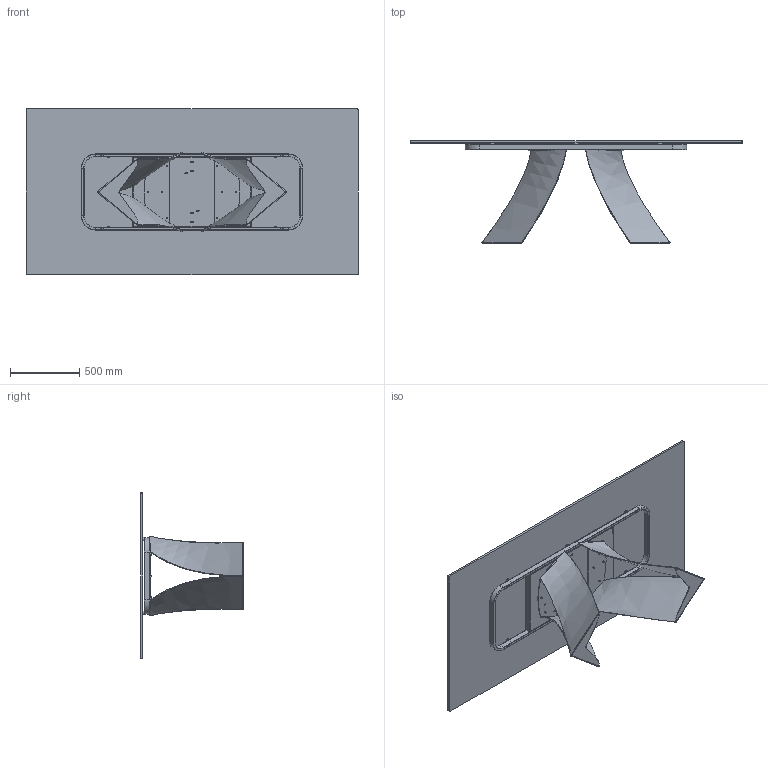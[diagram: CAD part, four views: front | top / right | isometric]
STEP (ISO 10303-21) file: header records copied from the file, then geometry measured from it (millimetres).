
FILE_DESCRIPTION (( 'STEP AP203' ), '1' );
FILE_NAME ('TW23G.STEP', '2024-08-07T12:38:18', ( '' ), ( '' ), 'SwSTEP 2.0', 'SolidWorks 2022', '' );
FILE_SCHEMA (( 'CONFIG_CONTROL_DESIGN' ));
Length unit declared in the file: millimetre
Products named in the file (9): TUBOLARE TELAIO TEMP TWIST_Default<A macchina>; rondella M8_8X16; C2XCRXX-00-Piani Rettangolari Cristallo_23 2400x1200; 434070-00-PIEDINO TPV GOMMA NERO D. 30x8max18; M8xXXmm_M8x20mm; TWS000000BAS-00-TWIST BASE GREZZA; TW23G; TEALIO TEMP PER MANUALE; TTAV01_02-01-VASSOIO IRRIGIDIMENTO TELAIO UNIVERSALE
Assembly tree (36 placements, depth 3):
  TW23G
    C2XCRXX-00-Piani Rettangolari Cristallo_23 2400x1200
    TEALIO TEMP PER MANUALE
      TUBOLARE TELAIO TEMP TWIST_Default<A macchina>
      TTAV01_02-01-VASSOIO IRRIGIDIMENTO TELAIO UNIVERSALE
    TWS000000BAS-00-TWIST BASE GREZZA  x2
    M8xXXmm_M8x20mm  x12
    rondella M8_8X16  x12
    434070-00-PIEDINO TPV GOMMA NERO D. 30x8max18  x6
Bounding box: 2400 x 740.37 x 1200 mm (x, y, z)
Volume: 53615784.8 mm3; surface area: 10279924.3 mm2
Topology: 56 solids, 56 shells, 1108 faces, 2582 edges, 1574 vertices
Faces by surface type: plane 428, cylinder 282, torus 200, cone 132, bspline 66
Entity records: 22455 total; most frequent: CARTESIAN_POINT 8921, DIRECTION 2509, ORIENTED_EDGE 2426, EDGE_CURVE 1213, AXIS2_PLACEMENT_3D 928, VERTEX_POINT 787, VECTOR 653, LINE 653
